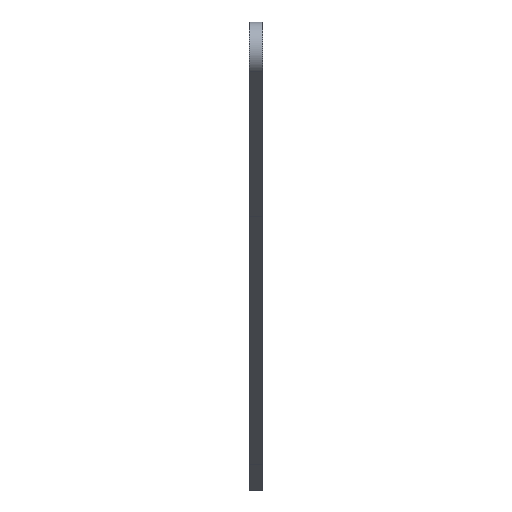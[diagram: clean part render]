
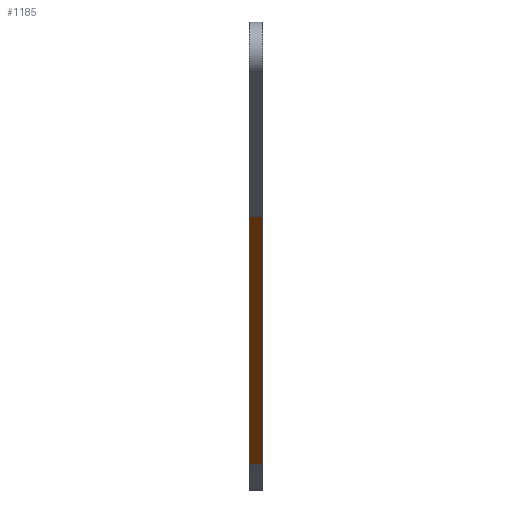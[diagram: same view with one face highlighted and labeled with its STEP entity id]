
A CAD part, left-side view. The second image highlights one B-rep face of the part: STEP entity #1185.
In plain terms, the highlighted planar face has unit normal (-0.61, 0, -0.792).
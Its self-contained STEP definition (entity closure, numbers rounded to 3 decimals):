
#98 = PLANE('',#99);
#99 = AXIS2_PLACEMENT_3D('',#100,#101,#102);
#100 = CARTESIAN_POINT('',(39.148,13.,208.025));
#101 = DIRECTION('',(-0.,-1.,-0.));
#102 = DIRECTION('',(0.,0.,-1.));
#239 = VERTEX_POINT('',#240);
#240 = CARTESIAN_POINT('',(-32.786,13.,239.465));
#254 = PLANE('',#255);
#255 = AXIS2_PLACEMENT_3D('',#256,#257,#258);
#256 = CARTESIAN_POINT('',(-169.883,13.,345.009));
#257 = DIRECTION('',(0.61,0.,0.792));
#258 = DIRECTION('',(0.792,0.,-0.61));
#266 = EDGE_CURVE('',#239,#267,#269,.T.);
#267 = VERTEX_POINT('',#268);
#268 = CARTESIAN_POINT('',(202.7,13.,58.1));
#269 = SURFACE_CURVE('',#270,(#274,#281),.PCURVE_S1.);
#270 = LINE('',#271,#272);
#271 = CARTESIAN_POINT('',(-32.786,13.,239.465));
#272 = VECTOR('',#273,1.);
#273 = DIRECTION('',(0.792,0.,-0.61));
#274 = PCURVE('',#98,#275);
#275 = DEFINITIONAL_REPRESENTATION('',(#276),#280);
#276 = LINE('',#277,#278);
#277 = CARTESIAN_POINT('',(-31.44,-71.934));
#278 = VECTOR('',#279,1.);
#279 = DIRECTION('',(0.61,0.792));
#280 = ( GEOMETRIC_REPRESENTATION_CONTEXT(2) 
PARAMETRIC_REPRESENTATION_CONTEXT() REPRESENTATION_CONTEXT('2D SPACE',''
  ) );
#281 = PCURVE('',#282,#287);
#282 = PLANE('',#283);
#283 = AXIS2_PLACEMENT_3D('',#284,#285,#286);
#284 = CARTESIAN_POINT('',(-32.786,13.,239.465));
#285 = DIRECTION('',(0.61,0.,0.792));
#286 = DIRECTION('',(0.792,0.,-0.61));
#287 = DEFINITIONAL_REPRESENTATION('',(#288),#292);
#288 = LINE('',#289,#290);
#289 = CARTESIAN_POINT('',(0.,0.));
#290 = VECTOR('',#291,1.);
#291 = DIRECTION('',(1.,0.));
#292 = ( GEOMETRIC_REPRESENTATION_CONTEXT(2) 
PARAMETRIC_REPRESENTATION_CONTEXT() REPRESENTATION_CONTEXT('2D SPACE',''
  ) );
#310 = PLANE('',#311);
#311 = AXIS2_PLACEMENT_3D('',#312,#313,#314);
#312 = CARTESIAN_POINT('',(202.7,13.,58.1));
#313 = DIRECTION('',(0.61,0.,0.793));
#314 = DIRECTION('',(0.793,0.,-0.61));
#775 = PLANE('',#776);
#776 = AXIS2_PLACEMENT_3D('',#777,#778,#779);
#777 = CARTESIAN_POINT('',(39.148,3.,208.025));
#778 = DIRECTION('',(-0.,-1.,-0.));
#779 = DIRECTION('',(0.,0.,-1.));
#1140 = EDGE_CURVE('',#267,#1141,#1143,.T.);
#1141 = VERTEX_POINT('',#1142);
#1142 = CARTESIAN_POINT('',(202.7,3.,58.1));
#1143 = SURFACE_CURVE('',#1144,(#1148,#1155),.PCURVE_S1.);
#1144 = LINE('',#1145,#1146);
#1145 = CARTESIAN_POINT('',(202.7,13.,58.1));
#1146 = VECTOR('',#1147,1.);
#1147 = DIRECTION('',(0.,-1.,0.));
#1148 = PCURVE('',#310,#1149);
#1149 = DEFINITIONAL_REPRESENTATION('',(#1150),#1154);
#1150 = LINE('',#1151,#1152);
#1151 = CARTESIAN_POINT('',(0.,0.));
#1152 = VECTOR('',#1153,1.);
#1153 = DIRECTION('',(0.,-1.));
#1154 = ( GEOMETRIC_REPRESENTATION_CONTEXT(2) 
PARAMETRIC_REPRESENTATION_CONTEXT() REPRESENTATION_CONTEXT('2D SPACE',''
  ) );
#1155 = PCURVE('',#282,#1156);
#1156 = DEFINITIONAL_REPRESENTATION('',(#1157),#1161);
#1157 = LINE('',#1158,#1159);
#1158 = CARTESIAN_POINT('',(297.232,0.));
#1159 = VECTOR('',#1160,1.);
#1160 = DIRECTION('',(0.,-1.));
#1161 = ( GEOMETRIC_REPRESENTATION_CONTEXT(2) 
PARAMETRIC_REPRESENTATION_CONTEXT() REPRESENTATION_CONTEXT('2D SPACE',''
  ) );
#1185 = ADVANCED_FACE('',(#1186),#282,.F.);
#1186 = FACE_BOUND('',#1187,.F.);
#1187 = EDGE_LOOP('',(#1188,#1211,#1232,#1233));
#1188 = ORIENTED_EDGE('',*,*,#1189,.T.);
#1189 = EDGE_CURVE('',#239,#1190,#1192,.T.);
#1190 = VERTEX_POINT('',#1191);
#1191 = CARTESIAN_POINT('',(-32.786,3.,239.465));
#1192 = SURFACE_CURVE('',#1193,(#1197,#1204),.PCURVE_S1.);
#1193 = LINE('',#1194,#1195);
#1194 = CARTESIAN_POINT('',(-32.786,13.,239.465));
#1195 = VECTOR('',#1196,1.);
#1196 = DIRECTION('',(0.,-1.,0.));
#1197 = PCURVE('',#282,#1198);
#1198 = DEFINITIONAL_REPRESENTATION('',(#1199),#1203);
#1199 = LINE('',#1200,#1201);
#1200 = CARTESIAN_POINT('',(0.,0.));
#1201 = VECTOR('',#1202,1.);
#1202 = DIRECTION('',(0.,-1.));
#1203 = ( GEOMETRIC_REPRESENTATION_CONTEXT(2) 
PARAMETRIC_REPRESENTATION_CONTEXT() REPRESENTATION_CONTEXT('2D SPACE',''
  ) );
#1204 = PCURVE('',#254,#1205);
#1205 = DEFINITIONAL_REPRESENTATION('',(#1206),#1210);
#1206 = LINE('',#1207,#1208);
#1207 = CARTESIAN_POINT('',(173.018,0.));
#1208 = VECTOR('',#1209,1.);
#1209 = DIRECTION('',(0.,-1.));
#1210 = ( GEOMETRIC_REPRESENTATION_CONTEXT(2) 
PARAMETRIC_REPRESENTATION_CONTEXT() REPRESENTATION_CONTEXT('2D SPACE',''
  ) );
#1211 = ORIENTED_EDGE('',*,*,#1212,.T.);
#1212 = EDGE_CURVE('',#1190,#1141,#1213,.T.);
#1213 = SURFACE_CURVE('',#1214,(#1218,#1225),.PCURVE_S1.);
#1214 = LINE('',#1215,#1216);
#1215 = CARTESIAN_POINT('',(-32.786,3.,239.465));
#1216 = VECTOR('',#1217,1.);
#1217 = DIRECTION('',(0.792,0.,-0.61));
#1218 = PCURVE('',#282,#1219);
#1219 = DEFINITIONAL_REPRESENTATION('',(#1220),#1224);
#1220 = LINE('',#1221,#1222);
#1221 = CARTESIAN_POINT('',(0.,-10.));
#1222 = VECTOR('',#1223,1.);
#1223 = DIRECTION('',(1.,0.));
#1224 = ( GEOMETRIC_REPRESENTATION_CONTEXT(2) 
PARAMETRIC_REPRESENTATION_CONTEXT() REPRESENTATION_CONTEXT('2D SPACE',''
  ) );
#1225 = PCURVE('',#775,#1226);
#1226 = DEFINITIONAL_REPRESENTATION('',(#1227),#1231);
#1227 = LINE('',#1228,#1229);
#1228 = CARTESIAN_POINT('',(-31.44,-71.934));
#1229 = VECTOR('',#1230,1.);
#1230 = DIRECTION('',(0.61,0.792));
#1231 = ( GEOMETRIC_REPRESENTATION_CONTEXT(2) 
PARAMETRIC_REPRESENTATION_CONTEXT() REPRESENTATION_CONTEXT('2D SPACE',''
  ) );
#1232 = ORIENTED_EDGE('',*,*,#1140,.F.);
#1233 = ORIENTED_EDGE('',*,*,#266,.F.);
